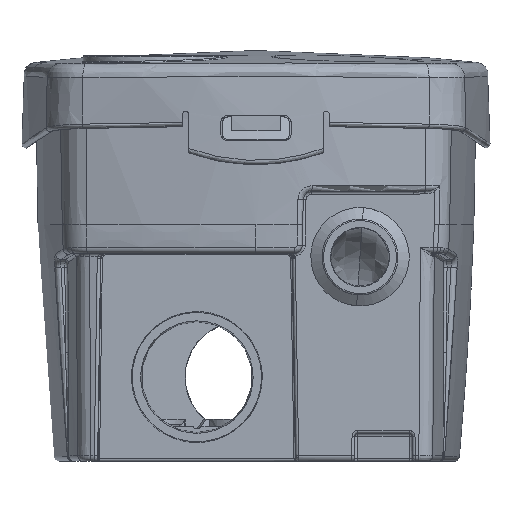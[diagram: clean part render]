
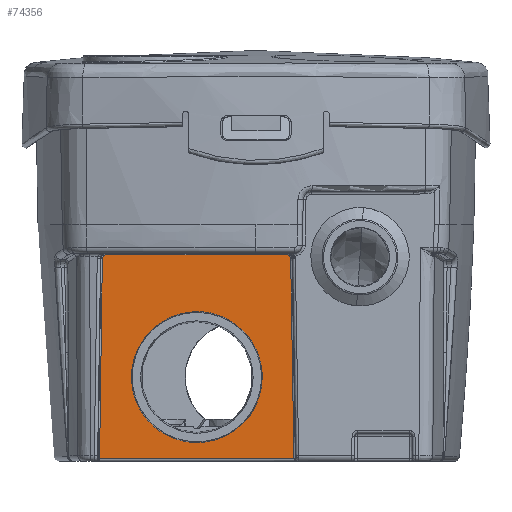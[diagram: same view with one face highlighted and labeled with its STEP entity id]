
A CAD part, left-side view. The second image highlights one B-rep face of the part: STEP entity #74356.
In plain terms, the highlighted planar face has unit normal (-1, 0, -0.018).
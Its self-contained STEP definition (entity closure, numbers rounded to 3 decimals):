
#87 = CARTESIAN_POINT ( 'NONE',  ( -133.5, -14., 0. ) ) ;
#267 = CARTESIAN_POINT ( 'NONE',  ( -133.517, 55.591, 0.983 ) ) ;
#1683 = CARTESIAN_POINT ( 'NONE',  ( -133.617, -25.535, 6.729 ) ) ;
#1888 = FACE_BOUND ( 'NONE', #11695, .T. ) ;
#3142 = ORIENTED_EDGE ( 'NONE', *, *, #83963, .T. ) ;
#4160 = LINE ( 'NONE', #64000, #6206 ) ;
#4562 = VERTEX_POINT ( 'NONE', #29085 ) ;
#5242 = ORIENTED_EDGE ( 'NONE', *, *, #29336, .T. ) ;
#6206 = VECTOR ( 'NONE', #25022, 1000. ) ;
#6603 = DIRECTION ( 'NONE',  ( 1., 0., 0.017 ) ) ;
#6755 = EDGE_CURVE ( 'NONE', #82387, #12105, #25024, .T. ) ;
#7672 = VERTEX_POINT ( 'NONE', #68354 ) ;
#7970 = AXIS2_PLACEMENT_3D ( 'NONE', #87, #6603, #52110 ) ;
#8522 = DIRECTION ( 'NONE',  ( 0., -1., 0. ) ) ;
#10052 = ORIENTED_EDGE ( 'NONE', *, *, #55120, .F. ) ;
#11695 = EDGE_LOOP ( 'NONE', ( #10052, #34791 ) ) ;
#12105 = VERTEX_POINT ( 'NONE', #82344 ) ;
#15388 = EDGE_CURVE ( 'NONE', #4562, #46347, #40575, .T. ) ;
#17491 = CARTESIAN_POINT ( 'NONE',  ( -134.43, 67.535, 53.264 ) ) ;
#17581 = CARTESIAN_POINT ( 'NONE',  ( -134.76, -12.341, 72.17 ) ) ;
#18146 = CARTESIAN_POINT ( 'NONE',  ( -134.783, -11.534, 73.509 ) ) ;
#19573 = CARTESIAN_POINT ( 'NONE',  ( -133.517, 55.591, 0.983 ) ) ;
#21279 = CARTESIAN_POINT ( 'NONE',  ( -134.43, 21., 53.264 ) ) ;
#22969 = CARTESIAN_POINT ( 'NONE',  ( -134.783, -10.843, 73.509 ) ) ;
#23071 = ORIENTED_EDGE ( 'NONE', *, *, #6755, .T. ) ;
#24096 = CARTESIAN_POINT ( 'NONE',  ( -134.757, -12.343, 72.035 ) ) ;
#24283 = ORIENTED_EDGE ( 'NONE', *, *, #38997, .T. ) ;
#25022 = DIRECTION ( 'NONE',  ( 0., 1., 0. ) ) ;
#25024 = B_SPLINE_CURVE_WITH_KNOTS ( 'NONE', 3,
 ( #39179, #71587, #19573, #267 ),
 .UNSPECIFIED., .F., .F.,
 ( 4, 4 ),
 ( 0., 0. ),
 .UNSPECIFIED. ) ;
#26159 = VECTOR ( 'NONE', #8522, 1000. ) ;
#26628 = CARTESIAN_POINT ( 'NONE',  ( -134.783, 53.965, 73.509 ) ) ;
#27469 = CARTESIAN_POINT ( 'NONE',  ( -134.772, 54.598, 72.901 ) ) ;
#29085 = CARTESIAN_POINT ( 'NONE',  ( -134.43, 21., 53.264 ) ) ;
#29336 = EDGE_CURVE ( 'NONE', #35815, #48464, #78399, .T. ) ;
#29651 =( BOUNDED_CURVE ( )  B_SPLINE_CURVE ( 3, ( #53367, #26628, #27469, #72936 ),
 .UNSPECIFIED., .F., .F. ) 
 B_SPLINE_CURVE_WITH_KNOTS ( ( 4, 4 ),
 ( 1.647, 3.2 ),
 .UNSPECIFIED. ) 
 CURVE ( )  GEOMETRIC_REPRESENTATION_ITEM ( )  RATIONAL_B_SPLINE_CURVE ( ( 1., 0.809, 0.809, 1. ) ) 
 REPRESENTATION_ITEM ( '' )  );
#30583 = CARTESIAN_POINT ( 'NONE',  ( -133.617, 21., 6.729 ) ) ;
#30681 = CARTESIAN_POINT ( 'NONE',  ( -134.762, -12.321, 72.304 ) ) ;
#32202 = VECTOR ( 'NONE', #77337, 1000. ) ;
#32974 = CARTESIAN_POINT ( 'NONE',  ( -134.783, 53.075, 73.509 ) ) ;
#33073 = VERTEX_POINT ( 'NONE', #40177 ) ;
#33902 = ORIENTED_EDGE ( 'NONE', *, *, #49730, .T. ) ;
#34791 = ORIENTED_EDGE ( 'NONE', *, *, #15388, .F. ) ;
#35815 = VERTEX_POINT ( 'NONE', #78407 ) ;
#35979 = VERTEX_POINT ( 'NONE', #22969 ) ;
#36251 = EDGE_CURVE ( 'NONE', #64497, #33073, #29651, .T. ) ;
#36691 = CARTESIAN_POINT ( 'NONE',  ( -133.517, 55.591, 0.984 ) ) ;
#37788 = ORIENTED_EDGE ( 'NONE', *, *, #70372, .T. ) ;
#38420 = CARTESIAN_POINT ( 'NONE',  ( -134.757, -12.344, 72.027 ) ) ;
#38428 = CARTESIAN_POINT ( 'NONE',  ( -133.517, 55.591, 0.977 ) ) ;
#38997 = EDGE_CURVE ( 'NONE', #48464, #7672, #76467, .T. ) ;
#39179 = CARTESIAN_POINT ( 'NONE',  ( -133.517, 55.591, 0.984 ) ) ;
#40177 = CARTESIAN_POINT ( 'NONE',  ( -134.757, 54.61, 72.035 ) ) ;
#40575 =( BOUNDED_CURVE ( )  B_SPLINE_CURVE ( 3, ( #63002, #17491, #69514, #30583 ),
 .UNSPECIFIED., .F., .F. ) 
 B_SPLINE_CURVE_WITH_KNOTS ( ( 4, 4 ),
 ( 3.142, 6.283 ),
 .UNSPECIFIED. ) 
 CURVE ( )  GEOMETRIC_REPRESENTATION_ITEM ( )  RATIONAL_B_SPLINE_CURVE ( ( 1., 0.333, 0.333, 1. ) ) 
 REPRESENTATION_ITEM ( '' )  );
#40614 = CARTESIAN_POINT ( 'NONE',  ( -133.617, 21., 6.729 ) ) ;
#41418 = LINE ( 'NONE', #79775, #26159 ) ;
#44904 = CARTESIAN_POINT ( 'NONE',  ( -133.617, 21., 6.729 ) ) ;
#44973 = DIRECTION ( 'NONE',  ( -0.017, 0.016, 1. ) ) ;
#46347 = VERTEX_POINT ( 'NONE', #44904 ) ;
#46584 = CARTESIAN_POINT ( 'NONE',  ( -134.757, -12.343, 72.035 ) ) ;
#47971 = ORIENTED_EDGE ( 'NONE', *, *, #82977, .T. ) ;
#48464 = VERTEX_POINT ( 'NONE', #46584 ) ;
#49511 = LINE ( 'NONE', #38428, #32202 ) ;
#49730 = EDGE_CURVE ( 'NONE', #7672, #35979, #65074, .T. ) ;
#50032 = CARTESIAN_POINT ( 'NONE',  ( -134.764, -12.282, 72.434 ) ) ;
#52110 = DIRECTION ( 'NONE',  ( 0.017, 0., -1. ) ) ;
#53367 = CARTESIAN_POINT ( 'NONE',  ( -134.783, 53.075, 73.509 ) ) ;
#55120 = EDGE_CURVE ( 'NONE', #46347, #4562, #64501, .T. ) ;
#57138 = CARTESIAN_POINT ( 'NONE',  ( -134.776, -12.087, 73.096 ) ) ;
#59165 = VECTOR ( 'NONE', #44973, 1000. ) ;
#60257 = CARTESIAN_POINT ( 'NONE',  ( -134.43, -25.535, 53.264 ) ) ;
#63002 = CARTESIAN_POINT ( 'NONE',  ( -134.43, 21., 53.264 ) ) ;
#63666 = CARTESIAN_POINT ( 'NONE',  ( -134.783, -10.843, 73.509 ) ) ;
#64000 = CARTESIAN_POINT ( 'NONE',  ( -134.783, -14., 73.509 ) ) ;
#64497 = VERTEX_POINT ( 'NONE', #32974 ) ;
#64501 =( BOUNDED_CURVE ( )  B_SPLINE_CURVE ( 3, ( #40614, #1683, #60257, #21279 ),
 .UNSPECIFIED., .F., .F. ) 
 B_SPLINE_CURVE_WITH_KNOTS ( ( 4, 4 ),
 ( 0., 3.142 ),
 .UNSPECIFIED. ) 
 CURVE ( )  GEOMETRIC_REPRESENTATION_ITEM ( )  RATIONAL_B_SPLINE_CURVE ( ( 1., 0.333, 0.333, 1. ) ) 
 REPRESENTATION_ITEM ( '' )  );
#64551 = EDGE_LOOP ( 'NONE', ( #37788, #77400, #3142, #23071, #47971, #5242, #24283, #33902 ) ) ;
#65074 =( BOUNDED_CURVE ( )  B_SPLINE_CURVE ( 3, ( #50032, #57138, #18146, #63666 ),
 .UNSPECIFIED., .F., .F. ) 
 B_SPLINE_CURVE_WITH_KNOTS ( ( 4, 4 ),
 ( 0., 1.283 ),
 .UNSPECIFIED. ) 
 CURVE ( )  GEOMETRIC_REPRESENTATION_ITEM ( )  RATIONAL_B_SPLINE_CURVE ( ( 1., 0.867, 0.867, 1. ) ) 
 REPRESENTATION_ITEM ( '' )  );
#68354 = CARTESIAN_POINT ( 'NONE',  ( -134.764, -12.282, 72.434 ) ) ;
#69514 = CARTESIAN_POINT ( 'NONE',  ( -133.617, 67.535, 6.729 ) ) ;
#70372 = EDGE_CURVE ( 'NONE', #35979, #64497, #4160, .T. ) ;
#71587 = CARTESIAN_POINT ( 'NONE',  ( -133.517, 55.591, 0.984 ) ) ;
#72936 = CARTESIAN_POINT ( 'NONE',  ( -134.757, 54.61, 72.035 ) ) ;
#74356 = ADVANCED_FACE ( 'NONE', ( #84166, #1888 ), #77882, .F. ) ;
#76093 = CARTESIAN_POINT ( 'NONE',  ( -134.764, -12.282, 72.434 ) ) ;
#76467 =( BOUNDED_CURVE ( )  B_SPLINE_CURVE ( 3, ( #24096, #17581, #30681, #76093 ),
 .UNSPECIFIED., .F., .F. ) 
 B_SPLINE_CURVE_WITH_KNOTS ( ( 4, 4 ),
 ( 6.013, 6.283 ),
 .UNSPECIFIED. ) 
 CURVE ( )  GEOMETRIC_REPRESENTATION_ITEM ( )  RATIONAL_B_SPLINE_CURVE ( ( 1., 0.994, 0.994, 1. ) ) 
 REPRESENTATION_ITEM ( '' )  );
#77337 = DIRECTION ( 'NONE',  ( 0.017, 0.014, -1. ) ) ;
#77400 = ORIENTED_EDGE ( 'NONE', *, *, #36251, .T. ) ;
#77882 = PLANE ( 'NONE',  #7970 ) ;
#78399 = LINE ( 'NONE', #38420, #59165 ) ;
#78407 = CARTESIAN_POINT ( 'NONE',  ( -133.517, -13.513, 0.983 ) ) ;
#79775 = CARTESIAN_POINT ( 'NONE',  ( -133.517, -14.984, 0.983 ) ) ;
#82344 = CARTESIAN_POINT ( 'NONE',  ( -133.517, 55.591, 0.983 ) ) ;
#82387 = VERTEX_POINT ( 'NONE', #36691 ) ;
#82977 = EDGE_CURVE ( 'NONE', #12105, #35815, #41418, .T. ) ;
#83963 = EDGE_CURVE ( 'NONE', #33073, #82387, #49511, .T. ) ;
#84166 = FACE_OUTER_BOUND ( 'NONE', #64551, .T. ) ;
